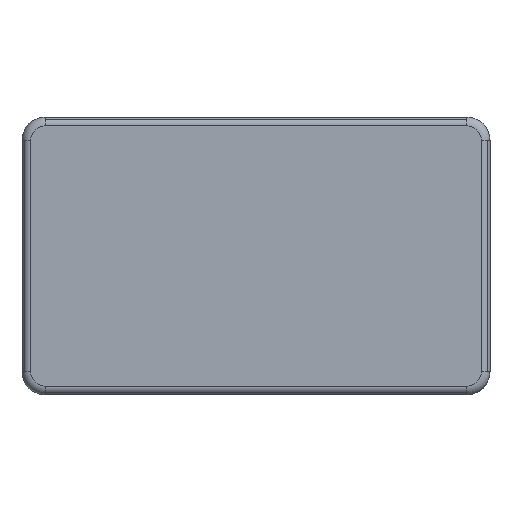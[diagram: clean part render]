
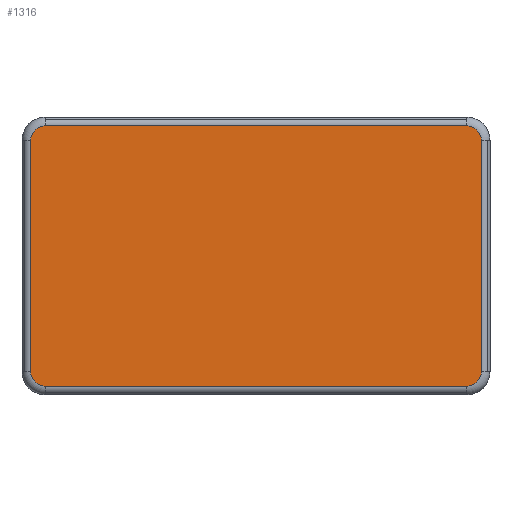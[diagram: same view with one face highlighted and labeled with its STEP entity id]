
A CAD part, front view. The second image highlights one B-rep face of the part: STEP entity #1316.
In plain terms, the highlighted planar face has unit normal (0, -1, 0).
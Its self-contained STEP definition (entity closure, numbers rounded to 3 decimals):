
#1316=ADVANCED_FACE('',(#3531),#3532,.F.);
#3531=FACE_OUTER_BOUND('',#5750,.T.);
#3532=PLANE('',#5751);
#5750=EDGE_LOOP('',(#15410,#15411,#15412,#15413,#15414,#15415,#15416,#15417));
#5751=AXIS2_PLACEMENT_3D('',#15418,#15419,#15420);
#15410=ORIENTED_EDGE('',*,*,#18632,.F.);
#15411=ORIENTED_EDGE('',*,*,#18566,.F.);
#15412=ORIENTED_EDGE('',*,*,#18646,.F.);
#15413=ORIENTED_EDGE('',*,*,#18570,.F.);
#15414=ORIENTED_EDGE('',*,*,#18643,.F.);
#15415=ORIENTED_EDGE('',*,*,#18574,.F.);
#15416=ORIENTED_EDGE('',*,*,#18638,.F.);
#15417=ORIENTED_EDGE('',*,*,#18578,.F.);
#15418=CARTESIAN_POINT('',(0.,-3.2,0.));
#15419=DIRECTION('',(0.,1.0,0.));
#15420=DIRECTION('',(0.0,0.,1.0));
#18566=EDGE_CURVE('',#23815,#23817,#23818,.T.);
#18570=EDGE_CURVE('',#23823,#23825,#23826,.T.);
#18574=EDGE_CURVE('',#23831,#23833,#23834,.T.);
#18578=EDGE_CURVE('',#23839,#23841,#23842,.T.);
#18632=EDGE_CURVE('',#23817,#23839,#23927,.T.);
#18638=EDGE_CURVE('',#23841,#23831,#23934,.T.);
#18643=EDGE_CURVE('',#23833,#23823,#23939,.T.);
#18646=EDGE_CURVE('',#23825,#23815,#23942,.T.);
#23815=VERTEX_POINT('',#32136);
#23817=VERTEX_POINT('',#32138);
#23818=LINE('',#32139,#32140);
#23823=VERTEX_POINT('',#32146);
#23825=VERTEX_POINT('',#32148);
#23826=LINE('',#32149,#32150);
#23831=VERTEX_POINT('',#32156);
#23833=VERTEX_POINT('',#32158);
#23834=LINE('',#32159,#32160);
#23839=VERTEX_POINT('',#32166);
#23841=VERTEX_POINT('',#32168);
#23842=LINE('',#32169,#32170);
#23927=CIRCLE('',#32276,0.05);
#23934=CIRCLE('',#32284,0.05);
#23939=CIRCLE('',#32290,0.05);
#23942=CIRCLE('',#32293,0.05);
#32136=CARTESIAN_POINT('',(-0.72,-3.2,0.445));
#32138=CARTESIAN_POINT('',(0.72,-3.2,0.445));
#32139=CARTESIAN_POINT('',(-0.36,-3.2,0.445));
#32140=VECTOR('',#35552,1.0);
#32146=CARTESIAN_POINT('',(-0.77,-3.2,-0.395));
#32148=CARTESIAN_POINT('',(-0.77,-3.2,0.395));
#32149=CARTESIAN_POINT('',(-0.77,-3.2,-0.198));
#32150=VECTOR('',#35560,1.0);
#32156=CARTESIAN_POINT('',(0.72,-3.2,-0.445));
#32158=CARTESIAN_POINT('',(-0.72,-3.2,-0.445));
#32159=CARTESIAN_POINT('',(0.36,-3.2,-0.445));
#32160=VECTOR('',#35568,1.0);
#32166=CARTESIAN_POINT('',(0.77,-3.2,0.395));
#32168=CARTESIAN_POINT('',(0.77,-3.2,-0.395));
#32169=CARTESIAN_POINT('',(0.77,-3.2,0.198));
#32170=VECTOR('',#35576,1.0);
#32276=AXIS2_PLACEMENT_3D('',#35694,#35695,#35696);
#32284=AXIS2_PLACEMENT_3D('',#35710,#35711,#35712);
#32290=AXIS2_PLACEMENT_3D('',#35723,#35724,#35725);
#32293=AXIS2_PLACEMENT_3D('',#35732,#35733,#35734);
#35552=DIRECTION('',(1.0,0.,0.0));
#35560=DIRECTION('',(0.0,0.,1.0));
#35568=DIRECTION('',(-1.0,0.,0.0));
#35576=DIRECTION('',(0.0,0.,-1.0));
#35694=CARTESIAN_POINT('',(0.72,-3.2,0.395));
#35695=DIRECTION('',(0.,1.0,0.));
#35696=DIRECTION('',(0.707,0.,0.707));
#35710=CARTESIAN_POINT('',(0.72,-3.2,-0.395));
#35711=DIRECTION('',(0.,1.0,0.));
#35712=DIRECTION('',(0.707,0.,-0.707));
#35723=CARTESIAN_POINT('',(-0.72,-3.2,-0.395));
#35724=DIRECTION('',(0.,1.0,0.));
#35725=DIRECTION('',(-0.707,0.,-0.707));
#35732=CARTESIAN_POINT('',(-0.72,-3.2,0.395));
#35733=DIRECTION('',(0.,1.0,0.));
#35734=DIRECTION('',(-0.707,0.,0.707));
